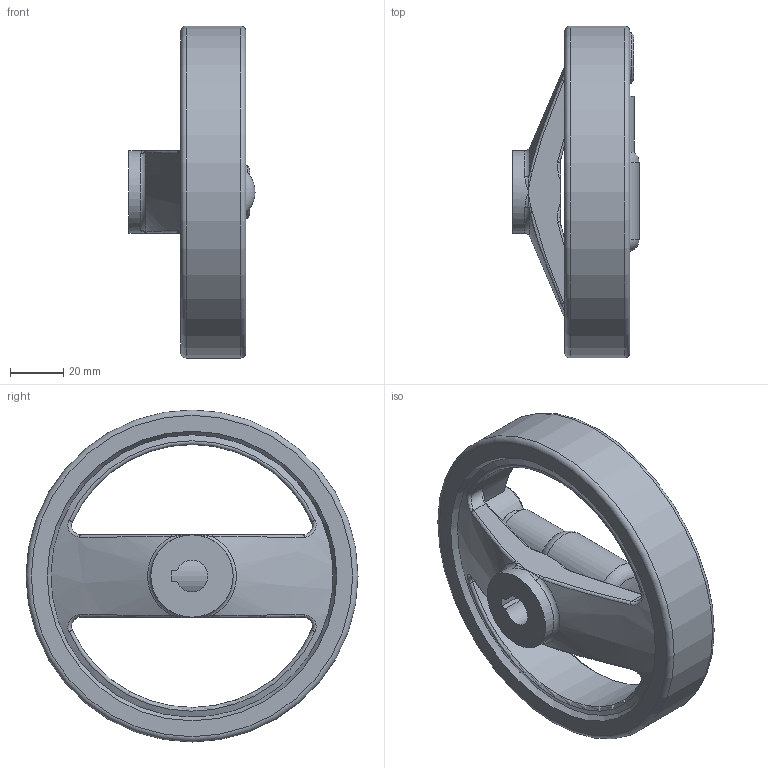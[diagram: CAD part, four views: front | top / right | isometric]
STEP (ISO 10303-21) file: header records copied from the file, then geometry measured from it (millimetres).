
FILE_DESCRIPTION (( 'STEP AP214' ), '1' );
FILE_NAME ('322.7-125-K12-R.step', '2022-04-07T13:21:19', ( '' ), ( '' ), 'SwSTEP 2.0', 'SolidWorks 2019', '' );
FILE_SCHEMA (( 'AUTOMOTIVE_DESIGN' ));
Length unit declared in the file: millimetre
Products named in the file (3): WB322.3_Handrad^WB322.7_1.2-125-K12-L; WB798.7_Griff^WB924.7_KT-22-M8; 322.7-125-K12-R
Assembly tree (2 placements, depth 2):
  322.7-125-K12-R
    WB322.3_Handrad^WB322.7_1.2-125-K12-L
    WB798.7_Griff^WB924.7_KT-22-M8
Bounding box: 47.5 x 125 x 125 mm (x, y, z)
Volume: 162197.9 mm3; surface area: 41058.5 mm2
Topology: 2 solids, 2 shells, 103 faces, 261 edges, 156 vertices
Faces by surface type: bspline 36, plane 27, cylinder 20, torus 13, cone 6, sphere 1
Full cylindrical faces by diameter (mm): 4 x1, 14 x1, 15 x1, 18.5 x1, 20 x1, 20.01 x1, 22 x1, 31 x1, 125 x1
Entity records: 5183 total; most frequent: CARTESIAN_POINT 2189, ORIENTED_EDGE 464, DIRECTION 388, EDGE_CURVE 232, AXIS2_PLACEMENT_3D 169, VERTEX_POINT 150, EDGE_LOOP 128, FACE_OUTER_BOUND 116
